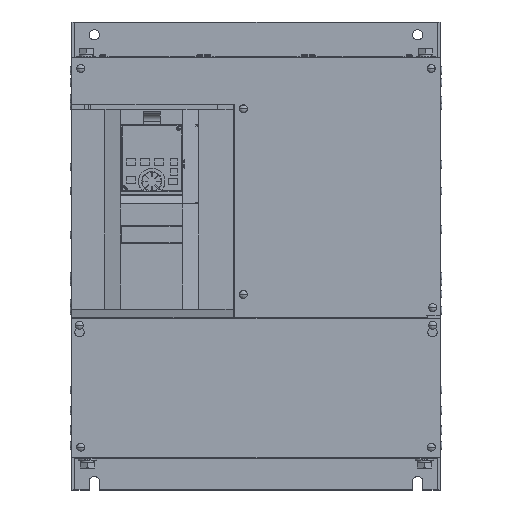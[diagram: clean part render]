
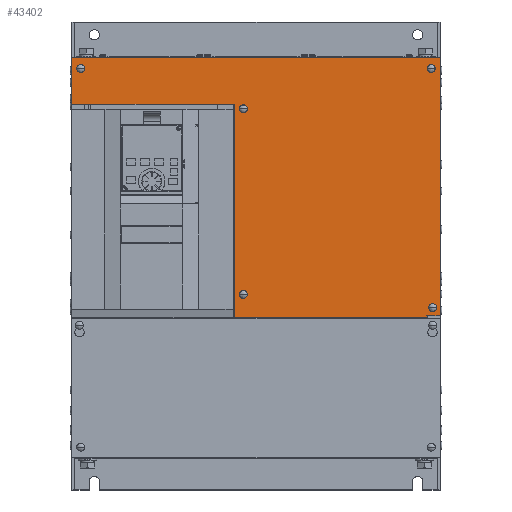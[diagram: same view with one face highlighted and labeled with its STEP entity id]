
A CAD part, top view. The second image highlights one B-rep face of the part: STEP entity #43402.
In plain terms, the highlighted planar face has unit normal (0, 0, 1).
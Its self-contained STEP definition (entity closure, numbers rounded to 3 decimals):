
#6794=DIRECTION('',(0.,-1.,0.));
#6795=VECTOR('',#6794,303.);
#6796=CARTESIAN_POINT('',(433.,467.5,239.7));
#6797=LINE('',#6796,#6795);
#6814=DIRECTION('',(-1.,0.,0.));
#6815=VECTOR('',#6814,16.);
#6816=CARTESIAN_POINT('',(433.,164.5,239.7));
#6817=LINE('',#6816,#6815);
#6818=DIRECTION('',(0.,1.,0.));
#6819=VECTOR('',#6818,2.);
#6820=CARTESIAN_POINT('',(417.,162.5,239.7));
#6821=LINE('',#6820,#6819);
#6822=DIRECTION('',(0.,1.,0.));
#6823=VECTOR('',#6822,250.5);
#6824=CARTESIAN_POINT('',(191.,162.5,239.7));
#6825=LINE('',#6824,#6823);
#6826=DIRECTION('',(1.,0.,0.));
#6827=VECTOR('',#6826,191.);
#6828=CARTESIAN_POINT('',(0.,413.,239.7));
#6829=LINE('',#6828,#6827);
#6830=DIRECTION('',(1.,0.,0.));
#6831=VECTOR('',#6830,433.);
#6832=CARTESIAN_POINT('',(0.,467.5,239.7));
#6833=LINE('',#6832,#6831);
#6834=CARTESIAN_POINT('',(10.5,455.,239.7));
#6835=DIRECTION('',(0.,0.,-1.));
#6836=DIRECTION('',(-1.,0.,0.));
#6837=AXIS2_PLACEMENT_3D('',#6834,#6835,#6836);
#6839=CARTESIAN_POINT('',(10.5,455.,239.7));
#6840=DIRECTION('',(0.,0.,-1.));
#6841=DIRECTION('',(1.,0.,0.));
#6842=AXIS2_PLACEMENT_3D('',#6839,#6840,#6841);
#6844=CARTESIAN_POINT('',(201.6,407.5,239.7));
#6845=DIRECTION('',(0.,0.,-1.));
#6846=DIRECTION('',(-1.,0.,0.));
#6847=AXIS2_PLACEMENT_3D('',#6844,#6845,#6846);
#6849=CARTESIAN_POINT('',(201.6,407.5,239.7));
#6850=DIRECTION('',(0.,0.,-1.));
#6851=DIRECTION('',(1.,0.,0.));
#6852=AXIS2_PLACEMENT_3D('',#6849,#6850,#6851);
#6854=CARTESIAN_POINT('',(422.5,455.,239.7));
#6855=DIRECTION('',(0.,0.,-1.));
#6856=DIRECTION('',(-1.,0.,0.));
#6857=AXIS2_PLACEMENT_3D('',#6854,#6855,#6856);
#6859=CARTESIAN_POINT('',(422.5,455.,239.7));
#6860=DIRECTION('',(0.,0.,-1.));
#6861=DIRECTION('',(1.,0.,0.));
#6862=AXIS2_PLACEMENT_3D('',#6859,#6860,#6861);
#6864=CARTESIAN_POINT('',(424.,174.,239.7));
#6865=DIRECTION('',(0.,0.,-1.));
#6866=DIRECTION('',(-1.,0.,0.));
#6867=AXIS2_PLACEMENT_3D('',#6864,#6865,#6866);
#6869=CARTESIAN_POINT('',(424.,174.,239.7));
#6870=DIRECTION('',(0.,0.,-1.));
#6871=DIRECTION('',(1.,0.,0.));
#6872=AXIS2_PLACEMENT_3D('',#6869,#6870,#6871);
#6874=CARTESIAN_POINT('',(201.6,189.5,239.7));
#6875=DIRECTION('',(0.,0.,-1.));
#6876=DIRECTION('',(-1.,0.,0.));
#6877=AXIS2_PLACEMENT_3D('',#6874,#6875,#6876);
#6879=CARTESIAN_POINT('',(201.6,189.5,239.7));
#6880=DIRECTION('',(0.,0.,-1.));
#6881=DIRECTION('',(1.,0.,0.));
#6882=AXIS2_PLACEMENT_3D('',#6879,#6880,#6881);
#6932=DIRECTION('',(0.,-1.,0.));
#6933=VECTOR('',#6932,54.5);
#6934=CARTESIAN_POINT('',(0.,467.5,239.7));
#6935=LINE('',#6934,#6933);
#6956=DIRECTION('',(1.,0.,0.));
#6957=VECTOR('',#6956,226.);
#6958=CARTESIAN_POINT('',(191.,162.5,239.7));
#6959=LINE('',#6958,#6957);
#28823=CARTESIAN_POINT('',(0.,467.5,239.7));
#28825=VERTEX_POINT('',#28823);
#28831=CARTESIAN_POINT('',(433.,467.5,239.7));
#28833=VERTEX_POINT('',#28831);
#28838=CARTESIAN_POINT('',(0.,413.,239.7));
#28840=VERTEX_POINT('',#28838);
#28842=CARTESIAN_POINT('',(191.,162.5,239.7));
#28843=CARTESIAN_POINT('',(191.,413.,239.7));
#28844=VERTEX_POINT('',#28842);
#28845=VERTEX_POINT('',#28843);
#28854=CARTESIAN_POINT('',(433.,164.5,239.7));
#28856=VERTEX_POINT('',#28854);
#28858=CARTESIAN_POINT('',(417.,164.5,239.7));
#28859=VERTEX_POINT('',#28858);
#28860=CARTESIAN_POINT('',(417.,162.5,239.7));
#28861=VERTEX_POINT('',#28860);
#28904=CARTESIAN_POINT('',(5.8,455.,239.7));
#28905=CARTESIAN_POINT('',(15.2,455.,239.7));
#28906=VERTEX_POINT('',#28904);
#28907=VERTEX_POINT('',#28905);
#28918=CARTESIAN_POINT('',(196.9,407.5,239.7));
#28919=CARTESIAN_POINT('',(206.3,407.5,239.7));
#28920=VERTEX_POINT('',#28918);
#28921=VERTEX_POINT('',#28919);
#28936=CARTESIAN_POINT('',(417.8,455.,239.7));
#28937=CARTESIAN_POINT('',(427.2,455.,239.7));
#28938=VERTEX_POINT('',#28936);
#28939=VERTEX_POINT('',#28937);
#28950=CARTESIAN_POINT('',(419.3,174.,239.7));
#28951=CARTESIAN_POINT('',(428.7,174.,239.7));
#28952=VERTEX_POINT('',#28950);
#28953=VERTEX_POINT('',#28951);
#28972=CARTESIAN_POINT('',(196.9,189.5,239.7));
#28973=CARTESIAN_POINT('',(206.3,189.5,239.7));
#28974=VERTEX_POINT('',#28972);
#28975=VERTEX_POINT('',#28973);
#43351=CARTESIAN_POINT('',(0.,467.5,239.7));
#43352=DIRECTION('',(0.,0.,1.));
#43353=DIRECTION('',(0.,-1.,0.));
#43354=AXIS2_PLACEMENT_3D('',#43351,#43352,#43353);
#43355=PLANE('',#43354);
#43356=ORIENTED_EDGE('',*,*,#43328,.T.);
#43358=ORIENTED_EDGE('',*,*,#43357,.F.);
#43360=ORIENTED_EDGE('',*,*,#43359,.F.);
#43362=ORIENTED_EDGE('',*,*,#43361,.T.);
#43364=ORIENTED_EDGE('',*,*,#43363,.F.);
#43366=ORIENTED_EDGE('',*,*,#43365,.F.);
#43368=ORIENTED_EDGE('',*,*,#43367,.T.);
#43369=ORIENTED_EDGE('',*,*,#43339,.T.);
#43370=EDGE_LOOP('',(#43356,#43358,#43360,#43362,#43364,#43366,#43368,#43369));
#43371=FACE_OUTER_BOUND('',#43370,.F.);
#43373=ORIENTED_EDGE('',*,*,#43372,.F.);
#43375=ORIENTED_EDGE('',*,*,#43374,.F.);
#43376=EDGE_LOOP('',(#43373,#43375));
#43377=FACE_BOUND('',#43376,.F.);
#43379=ORIENTED_EDGE('',*,*,#43378,.F.);
#43381=ORIENTED_EDGE('',*,*,#43380,.F.);
#43382=EDGE_LOOP('',(#43379,#43381));
#43383=FACE_BOUND('',#43382,.F.);
#43385=ORIENTED_EDGE('',*,*,#43384,.F.);
#43387=ORIENTED_EDGE('',*,*,#43386,.F.);
#43388=EDGE_LOOP('',(#43385,#43387));
#43389=FACE_BOUND('',#43388,.F.);
#43391=ORIENTED_EDGE('',*,*,#43390,.F.);
#43393=ORIENTED_EDGE('',*,*,#43392,.F.);
#43394=EDGE_LOOP('',(#43391,#43393));
#43395=FACE_BOUND('',#43394,.F.);
#43397=ORIENTED_EDGE('',*,*,#43396,.F.);
#43399=ORIENTED_EDGE('',*,*,#43398,.F.);
#43400=EDGE_LOOP('',(#43397,#43399));
#43401=FACE_BOUND('',#43400,.F.);
#43402=ADVANCED_FACE('',(#43371,#43377,#43383,#43389,#43395,#43401),#43355,.T.);
#6838=CIRCLE('',#6837,4.7);
#6843=CIRCLE('',#6842,4.7);
#6848=CIRCLE('',#6847,4.7);
#6853=CIRCLE('',#6852,4.7);
#6858=CIRCLE('',#6857,4.7);
#6863=CIRCLE('',#6862,4.7);
#6868=CIRCLE('',#6867,4.7);
#6873=CIRCLE('',#6872,4.7);
#6878=CIRCLE('',#6877,4.7);
#6883=CIRCLE('',#6882,4.7);
#43328=EDGE_CURVE('',#28856,#28859,#6817,.T.);
#43339=EDGE_CURVE('',#28833,#28856,#6797,.T.);
#43357=EDGE_CURVE('',#28861,#28859,#6821,.T.);
#43359=EDGE_CURVE('',#28844,#28861,#6959,.T.);
#43361=EDGE_CURVE('',#28844,#28845,#6825,.T.);
#43363=EDGE_CURVE('',#28840,#28845,#6829,.T.);
#43365=EDGE_CURVE('',#28825,#28840,#6935,.T.);
#43367=EDGE_CURVE('',#28825,#28833,#6833,.T.);
#43372=EDGE_CURVE('',#28906,#28907,#6838,.T.);
#43374=EDGE_CURVE('',#28907,#28906,#6843,.T.);
#43378=EDGE_CURVE('',#28920,#28921,#6848,.T.);
#43380=EDGE_CURVE('',#28921,#28920,#6853,.T.);
#43384=EDGE_CURVE('',#28938,#28939,#6858,.T.);
#43386=EDGE_CURVE('',#28939,#28938,#6863,.T.);
#43390=EDGE_CURVE('',#28952,#28953,#6868,.T.);
#43392=EDGE_CURVE('',#28953,#28952,#6873,.T.);
#43396=EDGE_CURVE('',#28974,#28975,#6878,.T.);
#43398=EDGE_CURVE('',#28975,#28974,#6883,.T.);
